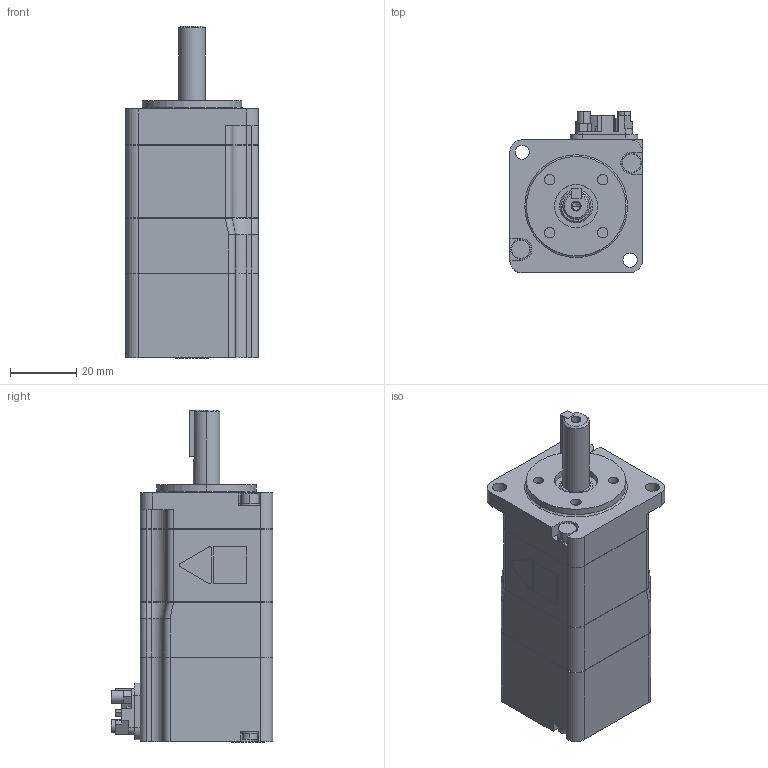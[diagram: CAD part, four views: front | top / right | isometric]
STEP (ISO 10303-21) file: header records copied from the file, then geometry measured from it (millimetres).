
FILE_DESCRIPTION( (''), '2;1');
FILE_NAME ('sgmxa_01awa61a_.stp','2023-08-25T11:43:43',(''),(''),'spGate 15.6.6','','');
FILE_SCHEMA (('AUTOMOTIVE_DESIGN'));
Length unit declared in the file: millimetre
Products named in the file (3): Assembly; sgmxa_01awa61a_-prt0; sgmxa_01awa61a_-prt1
Assembly tree (2 placements, depth 2):
  Assembly
    sgmxa_01awa61a_-prt0
    sgmxa_01awa61a_-prt1
Bounding box: 40.1 x 48.8 x 100.1 mm (x, y, z)
Volume: 115002.7 mm3; surface area: 18195 mm2
Topology: 2 solids, 2 shells, 352 faces, 917 edges, 606 vertices
Faces by surface type: plane 208, cylinder 129, bspline 15
Entity records: 18459 total; most frequent: CARTESIAN_POINT 2424, ORIENTED_EDGE 1830, DIRECTION 1757, COLOUR_RGB 1269, PRESENTATION_STYLE_ASSIGNMENT 1269, STYLED_ITEM 1269, EDGE_CURVE 915, DRAUGHTING_PRE_DEFINED_CURVE_FONT 915
